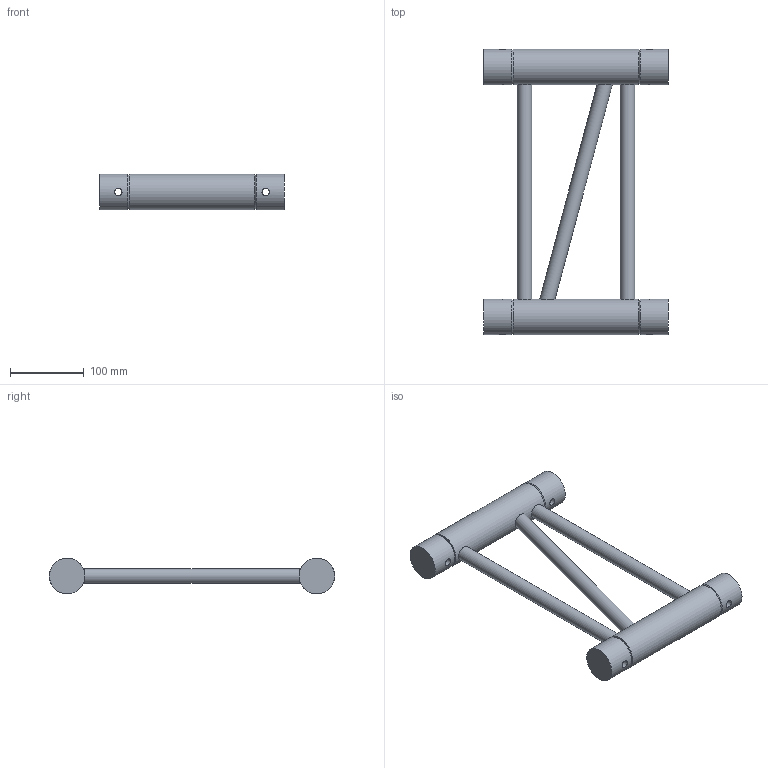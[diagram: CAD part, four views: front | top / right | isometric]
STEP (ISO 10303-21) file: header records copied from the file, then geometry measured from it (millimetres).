
FILE_DESCRIPTION(/* description */ (''),/* implementation_level */ '2;1');
FILE_NAME(/* name */ 'C:\Users\stephan\Desktop\Nieuwe map\H40L\111050143.stp',/* time_stamp */ '2016-09-12T12:47:47+02:00',/* author */ ('Stephan'),/* organization */ (''),/* preprocessor_version */ 'ST-DEVELOPER v15.6',/* originating_system */ 'Autodesk Inventor 2015',/* authorisation */ '');
FILE_SCHEMA (('AUTOMOTIVE_DESIGN { 1 0 10303 214 3 1 1 }'));
Length unit declared in the file: millimetre
Products named in the file (1): 160026978
Bounding box: 250 x 387.3 x 48.3 mm (x, y, z)
Volume: 751396.3 mm3; surface area: 203307.2 mm2
Topology: 5 solids, 7 shells, 51 faces, 89 edges, 56 vertices
Faces by surface type: plane 28, cylinder 19, cone 4
Full cylindrical faces by diameter (mm): 10 x4, 20 x3, 41.8 x4, 42.3 x2, 48.3 x6
Entity records: 1494 total; most frequent: CARTESIAN_POINT 450, DIRECTION 190, ORIENTED_EDGE 136, EDGE_LOOP 96, AXIS2_PLACEMENT_3D 92, EDGE_CURVE 62, VERTEX_POINT 56, STYLED_ITEM 52
